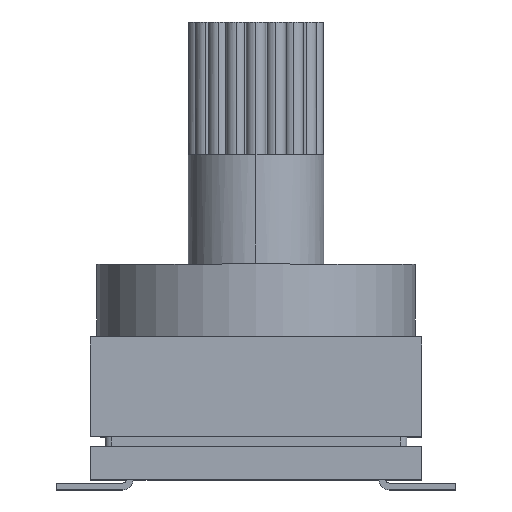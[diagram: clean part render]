
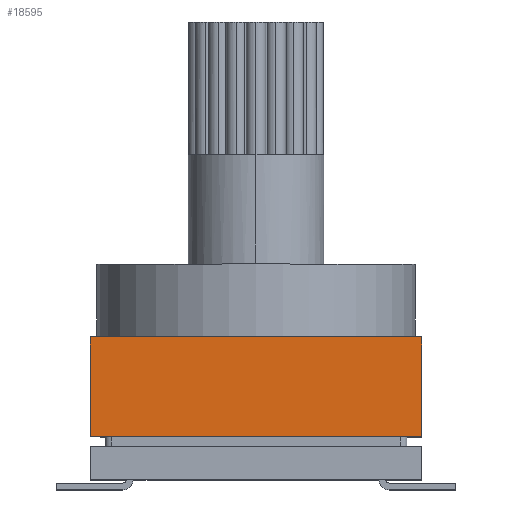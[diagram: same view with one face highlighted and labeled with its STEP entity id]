
A CAD part, top view. The second image highlights one B-rep face of the part: STEP entity #18595.
In plain terms, the highlighted planar face has unit normal (0, 0, 1).
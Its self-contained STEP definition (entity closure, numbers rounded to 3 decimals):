
#191 = DIRECTION ( 'NONE',  ( 0., 0., -1. ) ) ;
#2046 = EDGE_LOOP ( 'NONE', ( #5548, #27193, #21457, #8579 ) ) ;
#3175 = LINE ( 'NONE', #12872, #14269 ) ;
#4730 = FACE_OUTER_BOUND ( 'NONE', #2046, .T. ) ;
#5163 = VERTEX_POINT ( 'NONE', #16594 ) ;
#5413 = EDGE_CURVE ( 'NONE', #15262, #20302, #25618, .T. ) ;
#5548 = ORIENTED_EDGE ( 'NONE', *, *, #23737, .T. ) ;
#7376 = CARTESIAN_POINT ( 'NONE',  ( -5., 1.3, 5. ) ) ;
#7891 = VECTOR ( 'NONE', #14073, 1000. ) ;
#8182 = CARTESIAN_POINT ( 'NONE',  ( 5., 4.3, 5. ) ) ;
#8579 = ORIENTED_EDGE ( 'NONE', *, *, #12644, .F. ) ;
#8796 = DIRECTION ( 'NONE',  ( 1., 0., 0. ) ) ;
#8800 = LINE ( 'NONE', #24319, #19924 ) ;
#9315 = VERTEX_POINT ( 'NONE', #8182 ) ;
#9788 = VECTOR ( 'NONE', #27530, 1000. ) ;
#11998 = CARTESIAN_POINT ( 'NONE',  ( 5., 4.3, 5. ) ) ;
#12433 = AXIS2_PLACEMENT_3D ( 'NONE', #13491, #191, #15728 ) ;
#12644 = EDGE_CURVE ( 'NONE', #5163, #9315, #8800, .T. ) ;
#12778 = DIRECTION ( 'NONE',  ( 0., -1., 0. ) ) ;
#12872 = CARTESIAN_POINT ( 'NONE',  ( -5., 4.3, 5. ) ) ;
#13491 = CARTESIAN_POINT ( 'NONE',  ( 0., 4.3, 5. ) ) ;
#13892 = CARTESIAN_POINT ( 'NONE',  ( 5., 1.3, 5. ) ) ;
#14073 = DIRECTION ( 'NONE',  ( -1., 0., 0. ) ) ;
#14269 = VECTOR ( 'NONE', #12778, 1000. ) ;
#15262 = VERTEX_POINT ( 'NONE', #13892 ) ;
#15728 = DIRECTION ( 'NONE',  ( -1., 0., 0. ) ) ;
#16594 = CARTESIAN_POINT ( 'NONE',  ( -5., 4.3, 5. ) ) ;
#18231 = CARTESIAN_POINT ( 'NONE',  ( -5., 1.3, 5. ) ) ;
#18595 = ADVANCED_FACE ( 'NONE', ( #4730 ), #24538, .F. ) ;
#19924 = VECTOR ( 'NONE', #8796, 1000. ) ;
#20302 = VERTEX_POINT ( 'NONE', #18231 ) ;
#21457 = ORIENTED_EDGE ( 'NONE', *, *, #21949, .F. ) ;
#21949 = EDGE_CURVE ( 'NONE', #9315, #15262, #26815, .T. ) ;
#23737 = EDGE_CURVE ( 'NONE', #5163, #20302, #3175, .T. ) ;
#24319 = CARTESIAN_POINT ( 'NONE',  ( 0., 4.3, 5. ) ) ;
#24538 = PLANE ( 'NONE',  #12433 ) ;
#25618 = LINE ( 'NONE', #7376, #7891 ) ;
#26815 = LINE ( 'NONE', #11998, #9788 ) ;
#27193 = ORIENTED_EDGE ( 'NONE', *, *, #5413, .F. ) ;
#27530 = DIRECTION ( 'NONE',  ( 0., -1., 0. ) ) ;
